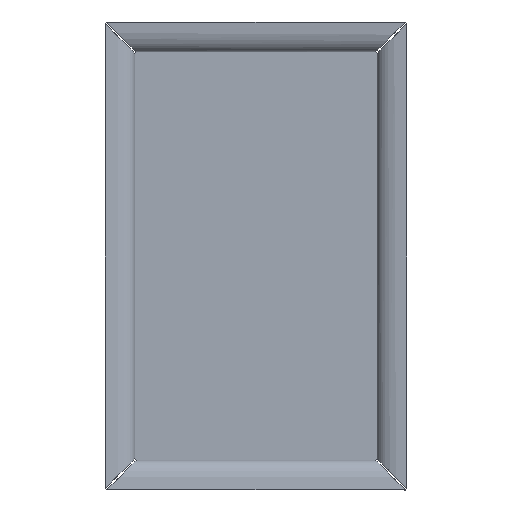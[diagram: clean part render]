
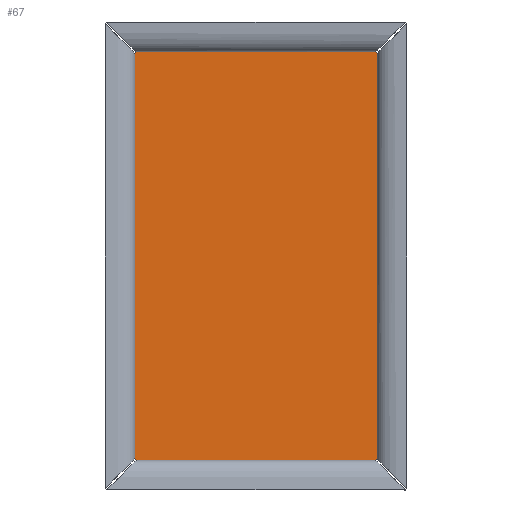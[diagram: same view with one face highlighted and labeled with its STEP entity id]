
A CAD part, top view. The second image highlights one B-rep face of the part: STEP entity #67.
In plain terms, the highlighted planar face has unit normal (0, 0, 1).
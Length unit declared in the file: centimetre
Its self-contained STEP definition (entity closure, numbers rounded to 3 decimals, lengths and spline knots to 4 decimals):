
#67=ADVANCED_FACE($,(#142),#910,.T.);
#142=FACE_OUTER_BOUND($,#217,.T.);
#217=EDGE_LOOP($,(#475,#476,#477,#478,#479,#480,#481,#482));
#475=ORIENTED_EDGE($,*,*,#729,.F.);
#476=ORIENTED_EDGE($,*,*,#720,.F.);
#477=ORIENTED_EDGE($,*,*,#728,.F.);
#478=ORIENTED_EDGE($,*,*,#719,.F.);
#479=ORIENTED_EDGE($,*,*,#727,.F.);
#480=ORIENTED_EDGE($,*,*,#718,.F.);
#481=ORIENTED_EDGE($,*,*,#726,.F.);
#482=ORIENTED_EDGE($,*,*,#721,.F.);
#718=EDGE_CURVE($,#855,#854,#1080,.T.);
#719=EDGE_CURVE($,#857,#856,#1081,.T.);
#720=EDGE_CURVE($,#859,#858,#1082,.T.);
#721=EDGE_CURVE($,#861,#860,#1083,.T.);
#726=EDGE_CURVE($,#860,#855,#1088,.T.);
#727=EDGE_CURVE($,#854,#857,#1089,.T.);
#728=EDGE_CURVE($,#856,#859,#1090,.T.);
#729=EDGE_CURVE($,#858,#861,#1091,.T.);
#854=VERTEX_POINT($,#2216);
#855=VERTEX_POINT($,#2217);
#856=VERTEX_POINT($,#2218);
#857=VERTEX_POINT($,#2219);
#858=VERTEX_POINT($,#2220);
#859=VERTEX_POINT($,#2221);
#860=VERTEX_POINT($,#2222);
#861=VERTEX_POINT($,#2223);
#910=PLANE($,#1252);
#1080=B_SPLINE_CURVE_WITH_KNOTS($,1,(#2114,#2115),.UNSPECIFIED.,.F.,.F.,
(2,2),(0.85,207.95),.UNSPECIFIED.);
#1081=B_SPLINE_CURVE_WITH_KNOTS($,1,(#2116,#2117),.UNSPECIFIED.,.F.,.F.,
(2,2),(0.85,122.95),.UNSPECIFIED.);
#1082=B_SPLINE_CURVE_WITH_KNOTS($,1,(#2118,#2119),.UNSPECIFIED.,.F.,.F.,
(2,2),(0.85,207.95),.UNSPECIFIED.);
#1083=B_SPLINE_CURVE_WITH_KNOTS($,1,(#2120,#2121),.UNSPECIFIED.,.F.,.F.,
(2,2),(0.85,122.95),.UNSPECIFIED.);
#1088=B_SPLINE_CURVE_WITH_KNOTS($,1,(#2130,#2131),.UNSPECIFIED.,.F.,.F.,
(2,2),(-1.,0.),.UNSPECIFIED.);
#1089=B_SPLINE_CURVE_WITH_KNOTS($,1,(#2132,#2133),.UNSPECIFIED.,.F.,.F.,
(2,2),(0.,1.),.UNSPECIFIED.);
#1090=B_SPLINE_CURVE_WITH_KNOTS($,1,(#2134,#2135),.UNSPECIFIED.,.F.,.F.,
(2,2),(0.,1.),.UNSPECIFIED.);
#1091=B_SPLINE_CURVE_WITH_KNOTS($,1,(#2136,#2137),.UNSPECIFIED.,.F.,.F.,
(2,2),(0.,1.),.UNSPECIFIED.);
#1252=AXIS2_PLACEMENT_3D($,#2172,#1283,$);
#1283=DIRECTION($,(0.,0.,1.));
#2114=CARTESIAN_POINT($,(0.,0.85,3.5));
#2115=CARTESIAN_POINT($,(0.,207.95,3.5));
#2116=CARTESIAN_POINT($,(0.85,208.8,3.5));
#2117=CARTESIAN_POINT($,(122.95,208.8,3.5));
#2118=CARTESIAN_POINT($,(123.8,207.95,3.5));
#2119=CARTESIAN_POINT($,(123.8,0.85,3.5));
#2120=CARTESIAN_POINT($,(122.95,0.,3.5));
#2121=CARTESIAN_POINT($,(0.85,0.,3.5));
#2130=CARTESIAN_POINT($,(0.85,0.,3.5));
#2131=CARTESIAN_POINT($,(0.,0.85,3.5));
#2132=CARTESIAN_POINT($,(0.,207.95,3.5));
#2133=CARTESIAN_POINT($,(0.85,208.8,3.5));
#2134=CARTESIAN_POINT($,(122.95,208.8,3.5));
#2135=CARTESIAN_POINT($,(123.8,207.95,3.5));
#2136=CARTESIAN_POINT($,(123.8,0.85,3.5));
#2137=CARTESIAN_POINT($,(122.95,0.,3.5));
#2172=CARTESIAN_POINT($,(0.,0.,3.5));
#2216=CARTESIAN_POINT($,(0.,207.95,3.5));
#2217=CARTESIAN_POINT($,(0.,0.85,3.5));
#2218=CARTESIAN_POINT($,(122.95,208.8,3.5));
#2219=CARTESIAN_POINT($,(0.85,208.8,3.5));
#2220=CARTESIAN_POINT($,(123.8,0.85,3.5));
#2221=CARTESIAN_POINT($,(123.8,207.95,3.5));
#2222=CARTESIAN_POINT($,(0.85,0.,3.5));
#2223=CARTESIAN_POINT($,(122.95,0.,3.5));
